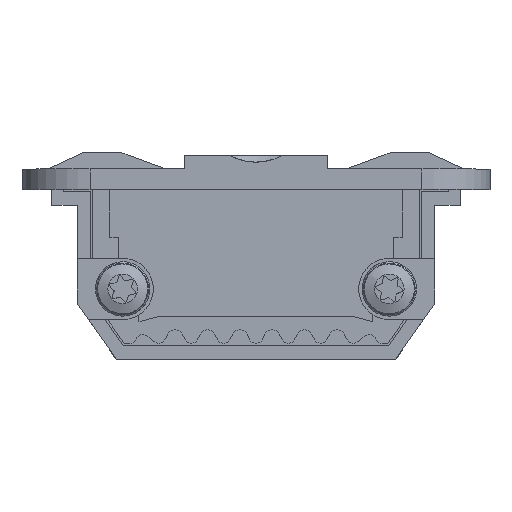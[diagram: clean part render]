
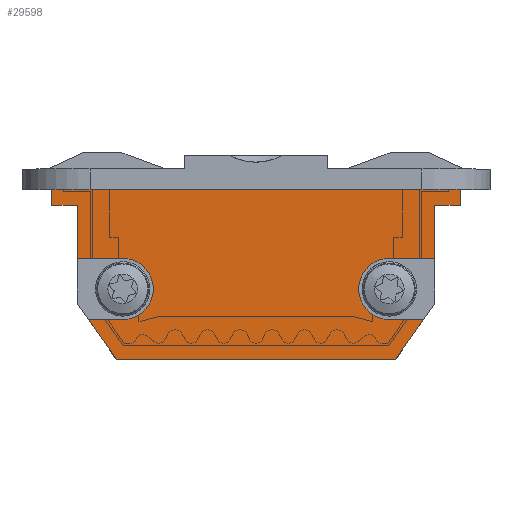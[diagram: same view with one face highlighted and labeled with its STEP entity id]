
A CAD part, top view. The second image highlights one B-rep face of the part: STEP entity #29598.
In plain terms, the highlighted planar face has unit normal (0, 0, 1) as drawn and (0, -1, 0) by its records, which use the part's own axes.
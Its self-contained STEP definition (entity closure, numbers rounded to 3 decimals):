
#499=CIRCLE('',#31020,2.25);
#500=CIRCLE('',#31021,2.25);
#5766=ORIENTED_EDGE('',*,*,#9481,.T.);
#5767=ORIENTED_EDGE('',*,*,#9407,.T.);
#5768=ORIENTED_EDGE('',*,*,#9425,.F.);
#5769=ORIENTED_EDGE('',*,*,#9482,.F.);
#5770=ORIENTED_EDGE('',*,*,#9444,.T.);
#5771=ORIENTED_EDGE('',*,*,#9483,.T.);
#5772=ORIENTED_EDGE('',*,*,#9484,.T.);
#5773=ORIENTED_EDGE('',*,*,#9485,.T.);
#5774=ORIENTED_EDGE('',*,*,#9474,.T.);
#5775=ORIENTED_EDGE('',*,*,#9480,.T.);
#5776=ORIENTED_EDGE('',*,*,#9465,.T.);
#5777=ORIENTED_EDGE('',*,*,#9486,.T.);
#5778=ORIENTED_EDGE('',*,*,#9487,.T.);
#5779=ORIENTED_EDGE('',*,*,#9488,.T.);
#5780=ORIENTED_EDGE('',*,*,#9471,.T.);
#5781=ORIENTED_EDGE('',*,*,#9489,.T.);
#9407=EDGE_CURVE('',#11697,#11696,#14356,.T.);
#9425=EDGE_CURVE('',#11711,#11696,#14373,.T.);
#9444=EDGE_CURVE('',#11728,#11727,#14392,.T.);
#9465=EDGE_CURVE('',#11745,#11746,#14411,.T.);
#9471=EDGE_CURVE('',#11750,#11749,#14417,.T.);
#9474=EDGE_CURVE('',#11752,#11753,#14420,.T.);
#9480=EDGE_CURVE('',#11753,#11745,#14424,.T.);
#9481=EDGE_CURVE('',#11757,#11697,#14425,.T.);
#9482=EDGE_CURVE('',#11728,#11711,#14426,.T.);
#9483=EDGE_CURVE('',#11727,#11758,#14427,.T.);
#9484=EDGE_CURVE('',#11758,#11759,#499,.T.);
#9485=EDGE_CURVE('',#11759,#11752,#14428,.T.);
#9486=EDGE_CURVE('',#11746,#11760,#14429,.T.);
#9487=EDGE_CURVE('',#11760,#11761,#500,.T.);
#9488=EDGE_CURVE('',#11761,#11750,#14430,.T.);
#9489=EDGE_CURVE('',#11749,#11757,#14431,.T.);
#11696=VERTEX_POINT('',#42723);
#11697=VERTEX_POINT('',#42725);
#11711=VERTEX_POINT('',#42759);
#11727=VERTEX_POINT('',#42797);
#11728=VERTEX_POINT('',#42799);
#11745=VERTEX_POINT('',#42839);
#11746=VERTEX_POINT('',#42840);
#11749=VERTEX_POINT('',#42849);
#11750=VERTEX_POINT('',#42851);
#11752=VERTEX_POINT('',#42857);
#11753=VERTEX_POINT('',#42858);
#11757=VERTEX_POINT('',#42873);
#11758=VERTEX_POINT('',#42876);
#11759=VERTEX_POINT('',#42878);
#11760=VERTEX_POINT('',#42881);
#11761=VERTEX_POINT('',#42883);
#14356=LINE('',#42724,#17132);
#14373=LINE('',#42760,#17149);
#14392=LINE('',#42798,#17168);
#14411=LINE('',#42838,#17187);
#14417=LINE('',#42850,#17193);
#14420=LINE('',#42856,#17196);
#14424=LINE('',#42870,#17200);
#14425=LINE('',#42872,#17201);
#14426=LINE('',#42874,#17202);
#14427=LINE('',#42875,#17203);
#14428=LINE('',#42879,#17204);
#14429=LINE('',#42880,#17205);
#14430=LINE('',#42884,#17206);
#14431=LINE('',#42885,#17207);
#17132=VECTOR('',#35939,1000.);
#17149=VECTOR('',#35964,1000.);
#17168=VECTOR('',#35989,1000.);
#17187=VECTOR('',#36016,1000.);
#17193=VECTOR('',#36024,1000.);
#17196=VECTOR('',#36029,1000.);
#17200=VECTOR('',#36043,1000.);
#17201=VECTOR('',#36046,1000.);
#17202=VECTOR('',#36047,1000.);
#17203=VECTOR('',#36048,1000.);
#17204=VECTOR('',#36051,1000.);
#17205=VECTOR('',#36052,1000.);
#17206=VECTOR('',#36055,1000.);
#17207=VECTOR('',#36056,1000.);
#18756=EDGE_LOOP('',(#5766,#5767,#5768,#5769,#5770,#5771,#5772,#5773,#5774,
#5775,#5776,#5777,#5778,#5779,#5780,#5781));
#20101=FACE_BOUND('',#18756,.T.);
#21237=PLANE('',#31019);
#29598=ADVANCED_FACE('',(#20101),#21237,.F.);
#31019=AXIS2_PLACEMENT_3D('',#42871,#36044,#36045);
#31020=AXIS2_PLACEMENT_3D('',#42877,#36049,#36050);
#31021=AXIS2_PLACEMENT_3D('',#42882,#36053,#36054);
#35939=DIRECTION('',(-1.,0.,0.));
#35964=DIRECTION('',(0.,0.,1.));
#35989=DIRECTION('',(0.,0.,-1.));
#36016=DIRECTION('',(0.574,0.,0.819));
#36024=DIRECTION('',(0.,0.,1.));
#36029=DIRECTION('',(0.574,0.,-0.819));
#36043=DIRECTION('',(1.,0.,0.));
#36044=DIRECTION('',(0.,1.,0.));
#36045=DIRECTION('',(0.,0.,1.));
#36046=DIRECTION('',(0.,0.,1.));
#36047=DIRECTION('',(-1.,0.,0.));
#36048=DIRECTION('',(1.,0.,0.));
#36049=DIRECTION('',(0.,1.,0.));
#36050=DIRECTION('',(-1.,0.,0.));
#36051=DIRECTION('',(-1.,0.,0.));
#36052=DIRECTION('',(-1.,0.,0.));
#36053=DIRECTION('',(0.,1.,0.));
#36054=DIRECTION('',(1.,0.,0.));
#36055=DIRECTION('',(1.,0.,0.));
#36056=DIRECTION('',(1.,0.,0.));
#42723=CARTESIAN_POINT('',(-15.,0.,1.8));
#42724=CARTESIAN_POINT('',(15.,0.,1.8));
#42725=CARTESIAN_POINT('',(15.,0.,1.8));
#42759=CARTESIAN_POINT('',(-15.,0.,0.65));
#42760=CARTESIAN_POINT('',(-15.,0.,1.8));
#42797=CARTESIAN_POINT('',(-13.15,0.,-3.25));
#42798=CARTESIAN_POINT('',(-13.15,0.,1.8));
#42799=CARTESIAN_POINT('',(-13.15,0.,0.65));
#42838=CARTESIAN_POINT('',(13.15,0.,-6.556));
#42839=CARTESIAN_POINT('',(10.284,0.,-10.65));
#42840=CARTESIAN_POINT('',(12.314,0.,-7.75));
#42849=CARTESIAN_POINT('',(13.15,0.,0.65));
#42850=CARTESIAN_POINT('',(13.15,0.,-6.556));
#42851=CARTESIAN_POINT('',(13.15,0.,-3.25));
#42856=CARTESIAN_POINT('',(-13.15,0.,-6.556));
#42857=CARTESIAN_POINT('',(-12.314,0.,-7.75));
#42858=CARTESIAN_POINT('',(-10.284,0.,-10.65));
#42870=CARTESIAN_POINT('',(-10.284,0.,-10.65));
#42871=CARTESIAN_POINT('',(0.,0.,0.));
#42872=CARTESIAN_POINT('',(15.,0.,1.8));
#42873=CARTESIAN_POINT('',(15.,0.,0.65));
#42874=CARTESIAN_POINT('',(-15.,0.,0.65));
#42875=CARTESIAN_POINT('',(-9.8,0.,-3.25));
#42876=CARTESIAN_POINT('',(-9.8,0.,-3.25));
#42877=CARTESIAN_POINT('',(-9.8,0.,-5.5));
#42878=CARTESIAN_POINT('',(-9.8,0.,-7.75));
#42879=CARTESIAN_POINT('',(-9.8,0.,-7.75));
#42880=CARTESIAN_POINT('',(9.8,0.,-7.75));
#42881=CARTESIAN_POINT('',(9.8,0.,-7.75));
#42882=CARTESIAN_POINT('',(9.8,0.,-5.5));
#42883=CARTESIAN_POINT('',(9.8,0.,-3.25));
#42884=CARTESIAN_POINT('',(9.8,0.,-3.25));
#42885=CARTESIAN_POINT('',(15.,0.,0.65));
